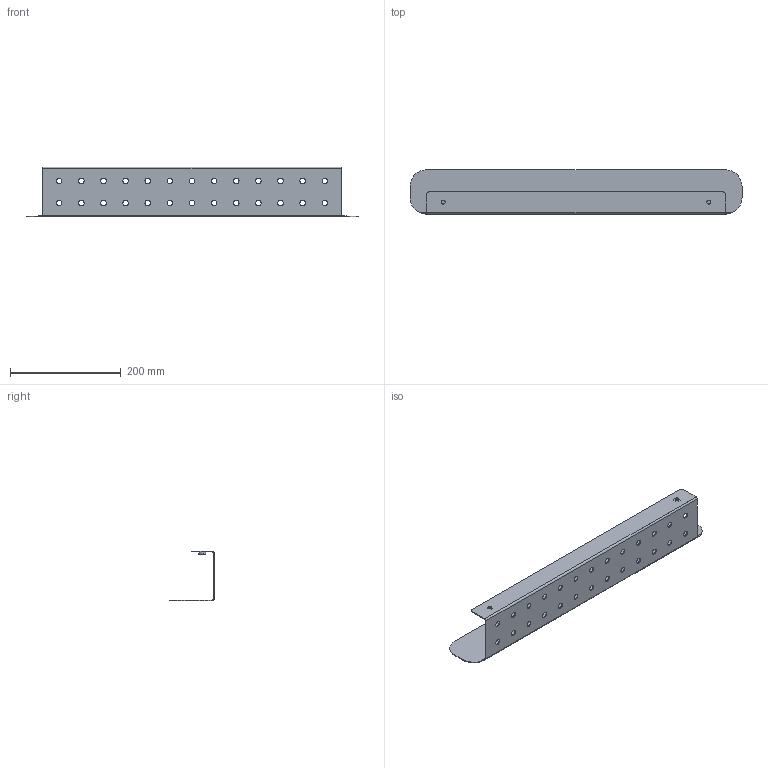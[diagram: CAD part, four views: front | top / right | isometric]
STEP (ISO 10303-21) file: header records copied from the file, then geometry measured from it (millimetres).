
FILE_DESCRIPTION (( 'STEP AP214' ), '1' );
FILE_NAME ('Pólka lazienkowa Ragio 60 cm.STEP', '2023-02-28T12:46:58', ( '' ), ( '' ), 'SwSTEP 2.0', 'SolidWorks 2021', '' );
FILE_SCHEMA (( 'AUTOMOTIVE_DESIGN' ));
Length unit declared in the file: millimetre
Products named in the file (3): zaslepka sruby 13mm; 01-008-0600-W-00-00; Pólka lazienkowa Ragio 60 cm
Assembly tree (3 placements, depth 2):
  Pólka lazienkowa Ragio 60 cm
    01-008-0600-W-00-00
    zaslepka sruby 13mm  x2
Bounding box: 600 x 80 x 90 mm (x, y, z)
Volume: 170255.6 mm3; surface area: 229783.1 mm2
Topology: 3 solids, 3 shells, 98 faces, 260 edges, 168 vertices
Faces by surface type: cylinder 70, plane 20, bspline 4, torus 4
Entity records: 3338 total; most frequent: CARTESIAN_POINT 706, DIRECTION 558, ORIENTED_EDGE 500, EDGE_CURVE 250, AXIS2_PLACEMENT_3D 230, VERTEX_POINT 162, EDGE_LOOP 148, CIRCLE 136
